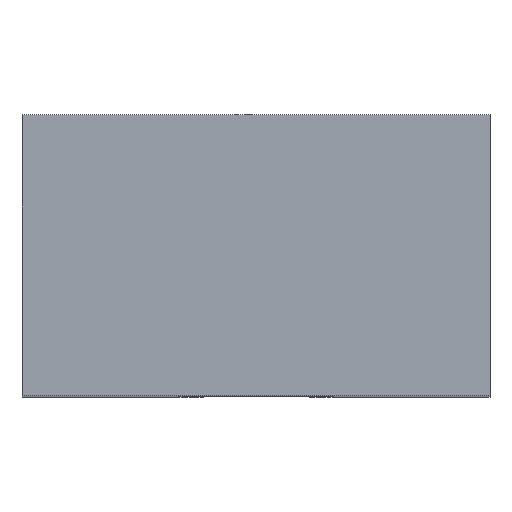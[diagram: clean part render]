
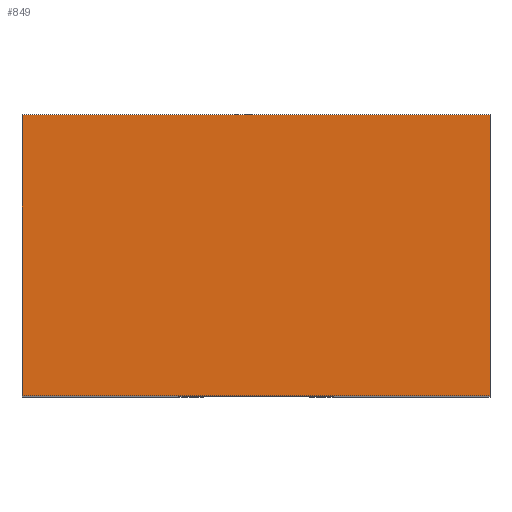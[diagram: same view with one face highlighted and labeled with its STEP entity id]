
A CAD part, top view. The second image highlights one B-rep face of the part: STEP entity #849.
In plain terms, the highlighted planar face has unit normal (0, 0, 1).
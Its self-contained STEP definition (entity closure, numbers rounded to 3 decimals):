
#24 = VERTEX_POINT('',#25);
#25 = CARTESIAN_POINT('',(-25.5,-15.5,-1.9));
#32 = PLANE('',#33);
#33 = AXIS2_PLACEMENT_3D('',#34,#35,#36);
#34 = CARTESIAN_POINT('',(-25.5,-15.5,-12.45));
#35 = DIRECTION('',(1.,0.,-0.));
#36 = DIRECTION('',(0.,0.,1.));
#44 = PLANE('',#45);
#45 = AXIS2_PLACEMENT_3D('',#46,#47,#48);
#46 = CARTESIAN_POINT('',(-25.5,-15.5,-12.45));
#47 = DIRECTION('',(-0.,1.,0.));
#48 = DIRECTION('',(0.,0.,1.));
#85 = VERTEX_POINT('',#86);
#86 = CARTESIAN_POINT('',(-25.5,-12.5,-1.9));
#100 = PLANE('',#101);
#101 = AXIS2_PLACEMENT_3D('',#102,#103,#104);
#102 = CARTESIAN_POINT('',(-25.5,-12.5,-12.45));
#103 = DIRECTION('',(-0.,1.,0.));
#104 = DIRECTION('',(0.,0.,1.));
#112 = EDGE_CURVE('',#24,#85,#113,.T.);
#113 = SURFACE_CURVE('',#114,(#118,#125),.PCURVE_S1.);
#114 = LINE('',#115,#116);
#115 = CARTESIAN_POINT('',(-25.5,-15.5,-1.9));
#116 = VECTOR('',#117,1.);
#117 = DIRECTION('',(-0.,1.,0.));
#118 = PCURVE('',#32,#119);
#119 = DEFINITIONAL_REPRESENTATION('',(#120),#124);
#120 = LINE('',#121,#122);
#121 = CARTESIAN_POINT('',(10.55,0.));
#122 = VECTOR('',#123,1.);
#123 = DIRECTION('',(0.,-1.));
#124 = ( GEOMETRIC_REPRESENTATION_CONTEXT(2) 
PARAMETRIC_REPRESENTATION_CONTEXT() REPRESENTATION_CONTEXT('2D SPACE',''
  ) );
#125 = PCURVE('',#126,#131);
#126 = PLANE('',#127);
#127 = AXIS2_PLACEMENT_3D('',#128,#129,#130);
#128 = CARTESIAN_POINT('',(-25.5,-15.5,-1.9));
#129 = DIRECTION('',(0.,0.,1.));
#130 = DIRECTION('',(1.,0.,-0.));
#131 = DEFINITIONAL_REPRESENTATION('',(#132),#136);
#132 = LINE('',#133,#134);
#133 = CARTESIAN_POINT('',(0.,0.));
#134 = VECTOR('',#135,1.);
#135 = DIRECTION('',(0.,1.));
#136 = ( GEOMETRIC_REPRESENTATION_CONTEXT(2) 
PARAMETRIC_REPRESENTATION_CONTEXT() REPRESENTATION_CONTEXT('2D SPACE',''
  ) );
#165 = EDGE_CURVE('',#24,#166,#168,.T.);
#166 = VERTEX_POINT('',#167);
#167 = CARTESIAN_POINT('',(-20.5,-15.5,-1.9));
#168 = SURFACE_CURVE('',#169,(#173,#180),.PCURVE_S1.);
#169 = LINE('',#170,#171);
#170 = CARTESIAN_POINT('',(-25.5,-15.5,-1.9));
#171 = VECTOR('',#172,1.);
#172 = DIRECTION('',(1.,0.,-0.));
#173 = PCURVE('',#44,#174);
#174 = DEFINITIONAL_REPRESENTATION('',(#175),#179);
#175 = LINE('',#176,#177);
#176 = CARTESIAN_POINT('',(10.55,0.));
#177 = VECTOR('',#178,1.);
#178 = DIRECTION('',(0.,1.));
#179 = ( GEOMETRIC_REPRESENTATION_CONTEXT(2) 
PARAMETRIC_REPRESENTATION_CONTEXT() REPRESENTATION_CONTEXT('2D SPACE',''
  ) );
#180 = PCURVE('',#126,#181);
#181 = DEFINITIONAL_REPRESENTATION('',(#182),#186);
#182 = LINE('',#183,#184);
#183 = CARTESIAN_POINT('',(0.,0.));
#184 = VECTOR('',#185,1.);
#185 = DIRECTION('',(1.,0.));
#186 = ( GEOMETRIC_REPRESENTATION_CONTEXT(2) 
PARAMETRIC_REPRESENTATION_CONTEXT() REPRESENTATION_CONTEXT('2D SPACE',''
  ) );
#204 = PLANE('',#205);
#205 = AXIS2_PLACEMENT_3D('',#206,#207,#208);
#206 = CARTESIAN_POINT('',(-20.5,-15.5,-12.45));
#207 = DIRECTION('',(1.,0.,-0.));
#208 = DIRECTION('',(0.,0.,1.));
#592 = EDGE_CURVE('',#85,#593,#595,.T.);
#593 = VERTEX_POINT('',#594);
#594 = CARTESIAN_POINT('',(-20.5,-12.5,-1.9));
#595 = SURFACE_CURVE('',#596,(#600,#607),.PCURVE_S1.);
#596 = LINE('',#597,#598);
#597 = CARTESIAN_POINT('',(-25.5,-12.5,-1.9));
#598 = VECTOR('',#599,1.);
#599 = DIRECTION('',(1.,0.,-0.));
#600 = PCURVE('',#100,#601);
#601 = DEFINITIONAL_REPRESENTATION('',(#602),#606);
#602 = LINE('',#603,#604);
#603 = CARTESIAN_POINT('',(10.55,0.));
#604 = VECTOR('',#605,1.);
#605 = DIRECTION('',(0.,1.));
#606 = ( GEOMETRIC_REPRESENTATION_CONTEXT(2) 
PARAMETRIC_REPRESENTATION_CONTEXT() REPRESENTATION_CONTEXT('2D SPACE',''
  ) );
#607 = PCURVE('',#126,#608);
#608 = DEFINITIONAL_REPRESENTATION('',(#609),#613);
#609 = LINE('',#610,#611);
#610 = CARTESIAN_POINT('',(0.,3.));
#611 = VECTOR('',#612,1.);
#612 = DIRECTION('',(1.,0.));
#613 = ( GEOMETRIC_REPRESENTATION_CONTEXT(2) 
PARAMETRIC_REPRESENTATION_CONTEXT() REPRESENTATION_CONTEXT('2D SPACE',''
  ) );
#849 = ADVANCED_FACE('',(#850),#126,.T.);
#850 = FACE_BOUND('',#851,.T.);
#851 = EDGE_LOOP('',(#852,#853,#854,#875));
#852 = ORIENTED_EDGE('',*,*,#112,.F.);
#853 = ORIENTED_EDGE('',*,*,#165,.T.);
#854 = ORIENTED_EDGE('',*,*,#855,.T.);
#855 = EDGE_CURVE('',#166,#593,#856,.T.);
#856 = SURFACE_CURVE('',#857,(#861,#868),.PCURVE_S1.);
#857 = LINE('',#858,#859);
#858 = CARTESIAN_POINT('',(-20.5,-15.5,-1.9));
#859 = VECTOR('',#860,1.);
#860 = DIRECTION('',(-0.,1.,0.));
#861 = PCURVE('',#126,#862);
#862 = DEFINITIONAL_REPRESENTATION('',(#863),#867);
#863 = LINE('',#864,#865);
#864 = CARTESIAN_POINT('',(5.,0.));
#865 = VECTOR('',#866,1.);
#866 = DIRECTION('',(0.,1.));
#867 = ( GEOMETRIC_REPRESENTATION_CONTEXT(2) 
PARAMETRIC_REPRESENTATION_CONTEXT() REPRESENTATION_CONTEXT('2D SPACE',''
  ) );
#868 = PCURVE('',#204,#869);
#869 = DEFINITIONAL_REPRESENTATION('',(#870),#874);
#870 = LINE('',#871,#872);
#871 = CARTESIAN_POINT('',(10.55,0.));
#872 = VECTOR('',#873,1.);
#873 = DIRECTION('',(0.,-1.));
#874 = ( GEOMETRIC_REPRESENTATION_CONTEXT(2) 
PARAMETRIC_REPRESENTATION_CONTEXT() REPRESENTATION_CONTEXT('2D SPACE',''
  ) );
#875 = ORIENTED_EDGE('',*,*,#592,.F.);
